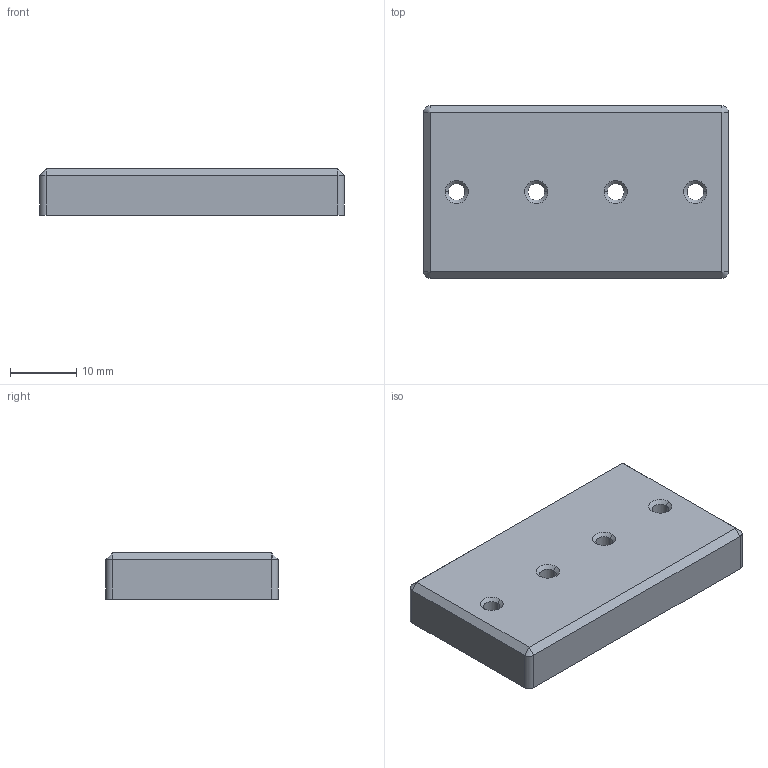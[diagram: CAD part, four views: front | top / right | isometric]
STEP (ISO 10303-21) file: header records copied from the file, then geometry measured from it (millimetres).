
FILE_DESCRIPTION (( 'STEP AP214' ), '1' );
FILE_NAME ('Tube Connector Fixture.STEP', '2023-03-29T19:47:55', ( '' ), ( '' ), 'SwSTEP 2.0', 'SolidWorks 2022', '' );
FILE_SCHEMA (( 'AUTOMOTIVE_DESIGN' ));
Length unit declared in the file: millimetre
Products named in the file (1): Tube Connector Fixture
Bounding box: 46 x 26 x 7 mm (x, y, z)
Volume: 8154 mm3; surface area: 3474.4 mm2
Topology: 1 solids, 1 shells, 34 faces, 80 edges, 44 vertices
Faces by surface type: cone 12, cylinder 12, plane 10
Entity records: 982 total; most frequent: DIRECTION 178, CARTESIAN_POINT 155, ORIENTED_EDGE 152, EDGE_CURVE 76, AXIS2_PLACEMENT_3D 67, VERTEX_POINT 44, VECTOR 44, LINE 44
